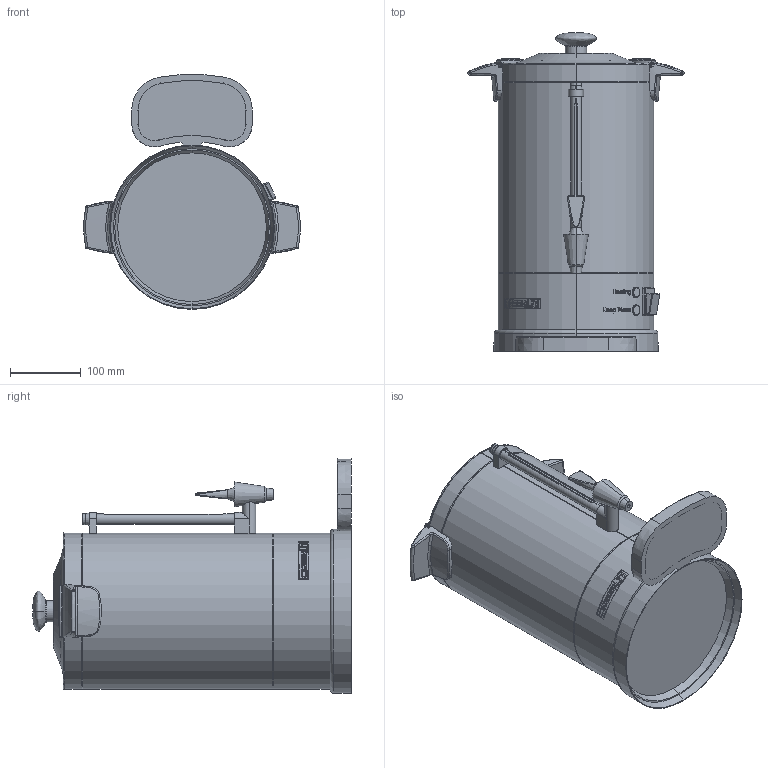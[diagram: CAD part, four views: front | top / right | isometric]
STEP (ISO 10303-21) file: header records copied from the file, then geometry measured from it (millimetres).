
FILE_DESCRIPTION (( 'STEP AP214' ), '1' );
FILE_NAME ('pres-CPC60.STEP', '2025-01-24T14:43:35', ( '' ), ( '' ), 'SwSTEP 2.0', 'SolidWorks 2025', '' );
FILE_SCHEMA (( 'AUTOMOTIVE_DESIGN' ));
Length unit declared in the file: millimetre
Products named in the file (26): ASS-base-perco; Bac-reception-perco; Bouton-commande-perco; ASS-couvercle-perco; ASS-jauge-perco; ASS-corps-perco-dbl; Corps-perco-dbl-haut; pres-CPC60; Nota-heating-perco; couvercle-perco; Jauge-perco; Nota-Off-perco; Poignée-corps-perco; Plaque-reception-perco; Socle-perco; Capuchon-perco; Bouton-perco; Nota-KeepWarm-perco; Nota-On-perco; Support-haut-perco; ASS-bac-reception; LOGO-CASSELIN-perco; Fixation-p1-couvercle-haut; Support-bas-perco; Corps-perco-dbl-bas; Base-perco
Assembly tree (28 placements, depth 3):
  pres-CPC60
    Socle-perco
    ASS-base-perco
      Base-perco
      Bouton-perco
      Bouton-commande-perco  x2
      LOGO-CASSELIN-perco
      Nota-heating-perco
      Nota-KeepWarm-perco
      Nota-On-perco
      Nota-Off-perco
    ASS-corps-perco-dbl
      Corps-perco-dbl-haut
      Poignée-corps-perco  x2
      Corps-perco-dbl-bas
    ASS-couvercle-perco
      couvercle-perco
      Fixation-p1-couvercle-haut  x2
    ASS-bac-reception
      Bac-reception-perco
      Plaque-reception-perco
    ASS-jauge-perco
      Jauge-perco
      Capuchon-perco
      Support-haut-perco
      Support-bas-perco
Bounding box: 305.28 x 450 x 331.54 mm (x, y, z)
Volume: 1150860.8 mm3; surface area: 888527.3 mm2
Topology: 43 solids, 43 shells, 944 faces, 2391 edges, 1535 vertices
Faces by surface type: bspline 390, cylinder 227, plane 149, torus 107, cone 65, sphere 6
Entity records: 70941 total; most frequent: CARTESIAN_POINT 50415, ORIENTED_EDGE 4352, DIRECTION 2469, EDGE_CURVE 2176, VERTEX_POINT 1408, B_SPLINE_CURVE_WITH_KNOTS 1326, AXIS2_PLACEMENT_3D 1092, EDGE_LOOP 974
